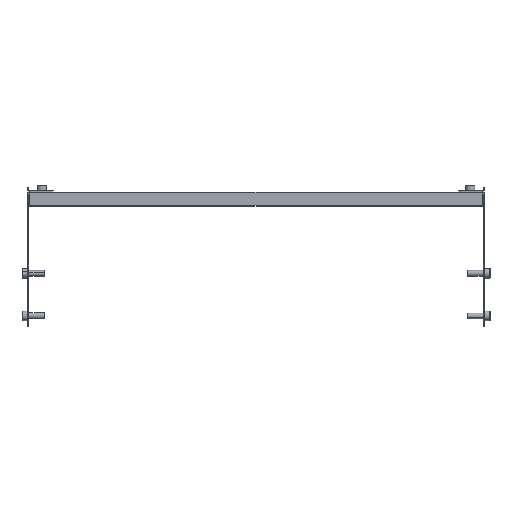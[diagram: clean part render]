
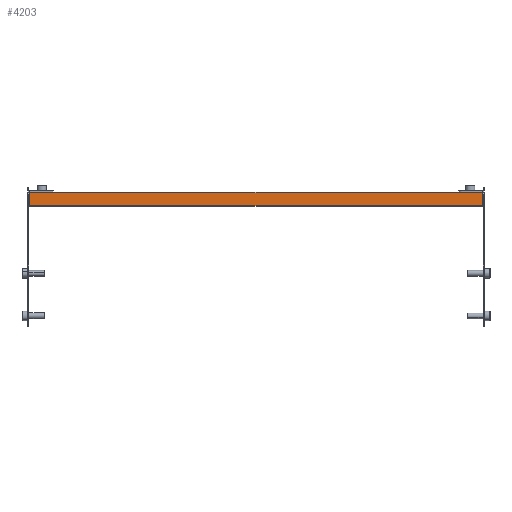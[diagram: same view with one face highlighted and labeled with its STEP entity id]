
A CAD part, front view. The second image highlights one B-rep face of the part: STEP entity #4203.
In plain terms, the highlighted planar face has unit normal (0, -1, 0) as drawn and (1, 0, 0) by its records, which use the part's own axes.
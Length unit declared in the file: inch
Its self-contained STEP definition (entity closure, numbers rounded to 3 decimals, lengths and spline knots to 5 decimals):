
#2571=DIRECTION('',(0.,-1.,0.));
#2572=VECTOR('',#2571,0.53055);
#2573=CARTESIAN_POINT('',(0.78127,0.26528,-9.30175));
#2574=LINE('',#2573,#2572);
#3210=DIRECTION('',(0.,0.,-1.));
#3211=VECTOR('',#3210,18.6035);
#3212=CARTESIAN_POINT('',(0.78127,0.26528,9.30175));
#3213=LINE('',#3212,#3211);
#3214=DIRECTION('',(0.,-1.,0.));
#3215=VECTOR('',#3214,0.53055);
#3216=CARTESIAN_POINT('',(0.78127,0.26528,9.30175));
#3217=LINE('',#3216,#3215);
#3218=DIRECTION('',(0.,0.,1.));
#3219=VECTOR('',#3218,18.6035);
#3220=CARTESIAN_POINT('',(0.78127,-0.26528,-9.30175));
#3221=LINE('',#3220,#3219);
#3508=CARTESIAN_POINT('',(0.78127,-0.26528,-9.30175));
#3509=CARTESIAN_POINT('',(0.78127,-0.26528,9.30175));
#3510=VERTEX_POINT('',#3508);
#3511=VERTEX_POINT('',#3509);
#3521=CARTESIAN_POINT('',(0.78127,0.26528,-9.30175));
#3523=VERTEX_POINT('',#3521);
#3746=CARTESIAN_POINT('',(0.78127,0.26528,9.30175));
#3747=VERTEX_POINT('',#3746);
#4191=CARTESIAN_POINT('',(0.78127,0.29528,9.30175));
#4192=DIRECTION('',(-1.,0.,0.));
#4193=DIRECTION('',(0.,0.,1.));
#4194=AXIS2_PLACEMENT_3D('',#4191,#4192,#4193);
#4195=PLANE('',#4194);
#4196=ORIENTED_EDGE('',*,*,#3991,.F.);
#4197=ORIENTED_EDGE('',*,*,#4186,.T.);
#4198=ORIENTED_EDGE('',*,*,#3841,.T.);
#4200=ORIENTED_EDGE('',*,*,#4199,.T.);
#4201=EDGE_LOOP('',(#4196,#4197,#4198,#4200));
#4202=FACE_OUTER_BOUND('',#4201,.F.);
#3841=EDGE_CURVE('',#3523,#3510,#2574,.T.);
#3991=EDGE_CURVE('',#3747,#3511,#3217,.T.);
#4186=EDGE_CURVE('',#3747,#3523,#3213,.T.);
#4199=EDGE_CURVE('',#3510,#3511,#3221,.T.);
#4203=ADVANCED_FACE('',(#4202),#4195,.F.);
